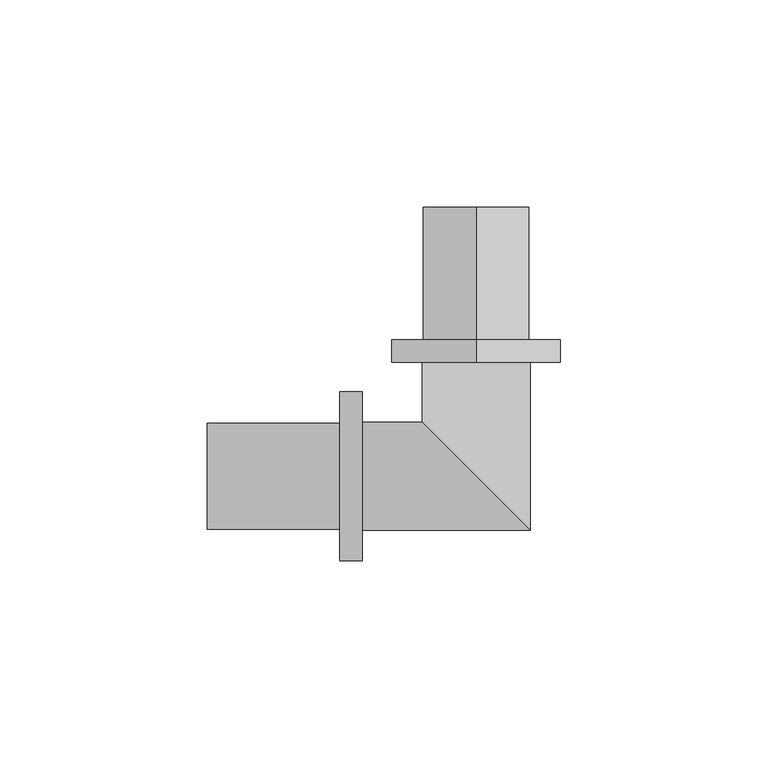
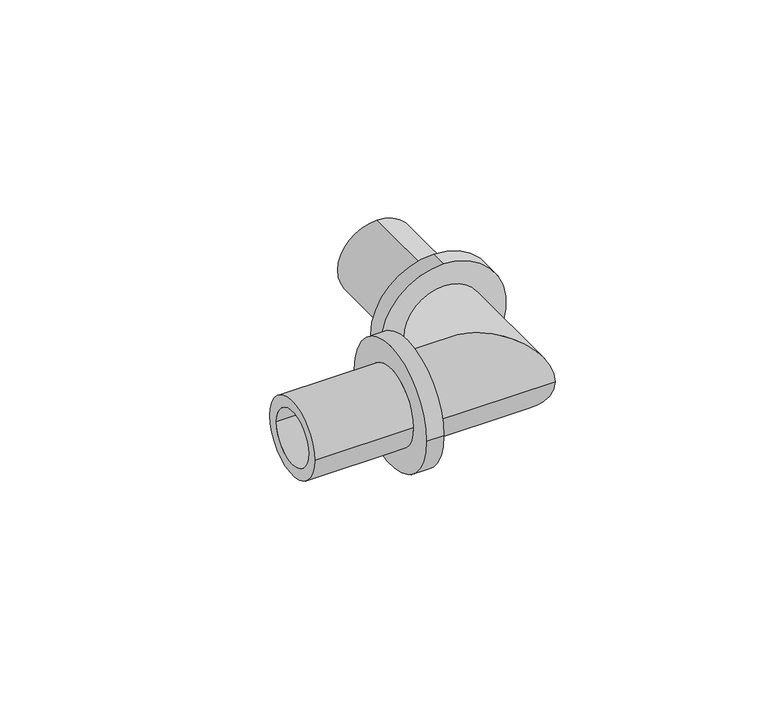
"""IFC4 building model written with IfcOpenShell, lengths in millimetres: pipe fitting geometry, RAUTITAN_Corner_PX : RTI PX C DE."""

from ifc_helpers import new_model, si_unit, frame, origin, place, context, project, spatial, polyline, circle_curve, ellipse_curve, source, transform, mapped, element, save
from ifc_brep_helpers import plane_surface, cylinder_surface, revolved_surface, advanced_brep


def pipe_fitting_f0699bc9(model_context):
    return source(origin(), model_context, "Body", "AdvancedBrep", [
        advanced_brep(
        [(0.0, 33.0, 20.45), (0.0, 33.0, -20.45), (0.0, 27.5, -20.45), (0.0, 27.5, 20.45), (0.0, 65.0, 12.75), (0.0, 65.0, -12.75), (0.0, 33.0, -12.75), (0.0, 33.0, 12.75), (0.0, 27.5, 9.05), (0.0, 27.5, -9.05), (0.0, 65.0, -9.05), (0.0, 65.0, 9.05)],
        [
            (0, 1, circle_curve(frame((0.0, 33.0, 0.0), z_axis=(0.0, -1.0, 0.0), x_axis=(0.0, 0.0, -1.0)), 20.45)),
            (1, 2),
            (2, 3, circle_curve(frame((0.0, 27.5, 0.0), z_axis=(0.0, 1.0, 0.0), x_axis=(0.0, 0.0, -1.0)), 20.45)),
            (3, 0),
            (4, 5, circle_curve(frame((0.0, 65.0, 0.0), z_axis=(0.0, -1.0, 0.0), x_axis=(0.0, 0.0, -1.0)), 12.75)),
            (5, 6),
            (6, 7, circle_curve(frame((0.0, 33.0, 0.0), z_axis=(0.0, 1.0, 0.0), x_axis=(0.0, 0.0, -1.0)), 12.75)),
            (7, 4),
            (8, 9, circle_curve(frame((0.0, 27.5, 0.0), z_axis=(0.0, -1.0, 0.0), x_axis=(0.0, 0.0, -1.0)), 9.05)),
            (9, 10),
            (10, 11, circle_curve(frame((0.0, 65.0, 0.0), z_axis=(0.0, 1.0, 0.0), x_axis=(0.0, 0.0, -1.0)), 9.05)),
            (11, 8),
            (1, 0, circle_curve(frame((0.0, 33.0, 0.0), z_axis=(0.0, -1.0, 0.0), x_axis=(0.0, 0.0, 1.0)), 20.45)),
            (3, 2, circle_curve(frame((0.0, 27.5, 0.0), z_axis=(0.0, 1.0, 0.0), x_axis=(0.0, 0.0, 1.0)), 20.45)),
            (6, 7, circle_curve(frame((0.0, 33.0, 0.0), z_axis=(0.0, -1.0, 0.0), x_axis=(0.0, 0.0, 1.0)), 12.75)),
            (5, 4, circle_curve(frame((0.0, 65.0, 0.0), z_axis=(0.0, -1.0, 0.0), x_axis=(0.0, 0.0, 1.0)), 12.75)),
            (10, 11, circle_curve(frame((0.0, 65.0, 0.0), z_axis=(0.0, -1.0, 0.0), x_axis=(0.0, 0.0, 1.0)), 9.05)),
            (9, 8, circle_curve(frame((0.0, 27.5, 0.0), z_axis=(0.0, -1.0, 0.0), x_axis=(0.0, 0.0, 1.0)), 9.05)),
        ],
        [
            cylinder_surface(frame((0.0, 27.5, 0.0), z_axis=(0.0, 1.0, 0.0), x_axis=(0.0, 0.0, -1.0)), 20.45),
            cylinder_surface(frame((0.0, 27.5, 0.0), z_axis=(0.0, 1.0, 0.0), x_axis=(0.0, 0.0, -1.0)), 12.75),
            revolved_surface(polyline([(0.0, 65.0, -9.05), (0.0, 27.5, -9.05)]), (0.0, 27.5, 0.0), (0.0, 1.0, 0.0)),
            cylinder_surface(frame((0.0, 27.5, 0.0), z_axis=(0.0, 1.0, 0.0), x_axis=(0.0, 0.0, 1.0)), 20.45),
            plane_surface(frame((0.0, 33.0, 0.0), z_axis=(0.0, 1.0, 0.0), x_axis=(0.0, 0.0, 1.0))),
            cylinder_surface(frame((0.0, 27.5, 0.0), z_axis=(0.0, 1.0, 0.0), x_axis=(0.0, 0.0, 1.0)), 12.75),
            plane_surface(frame((0.0, 65.0, 0.0), z_axis=(0.0, 1.0, 0.0), x_axis=(0.0, 0.0, 1.0))),
            revolved_surface(polyline([(0.0, 65.0, 9.05), (0.0, 27.5, 9.05)]), (0.0, 27.5, 0.0), (0.0, 1.0, 0.0)),
            plane_surface(frame((0.0, 27.5, 0.0), z_axis=(0.0, -1.0, 0.0), x_axis=(0.0, 0.0, 1.0))),
        ],
        [
            (0, [[1, 2, 3, 4]]),
            (1, [[5, 6, 7, 8]]),
            (2, [[9, 10, 11, 12]]),
            (3, [[13, -4, 14, -2]]),
            (4, [[-13, -1], [15, -7]]),
            (5, [[16, -8, -15, -6]]),
            (6, [[-16, -5], [17, -11]]),
            (7, [[18, -12, -17, -10]]),
            (8, [[-14, -3], [-18, -9]]),
        ],
    ),
        advanced_brep(
        [(-33.0, -20.45, 0.0), (-33.0, 20.45, 0.0), (-27.5, 20.45, 0.0), (-27.5, -20.45, 0.0), (-65.0, -12.75, 0.0), (-65.0, 12.75, 0.0), (-33.0, 12.75, 0.0), (-33.0, -12.75, 0.0), (-27.5, -9.05, 0.0), (-27.5, 9.05, 0.0), (-65.0, 9.05, 0.0), (-65.0, -9.05, 0.0)],
        [
            (0, 1, circle_curve(frame((-33.0, 0.0, 0.0), z_axis=(1.0, 0.0, 0.0), x_axis=(0.0, 1.0, 0.0)), 20.45)),
            (1, 2),
            (2, 3, circle_curve(frame((-27.5, 0.0, 0.0), z_axis=(-1.0, 0.0, 0.0), x_axis=(0.0, 1.0, 0.0)), 20.45)),
            (3, 0),
            (4, 5, circle_curve(frame((-65.0, 0.0, 0.0), z_axis=(1.0, 0.0, 0.0), x_axis=(0.0, 1.0, 0.0)), 12.75)),
            (5, 6),
            (6, 7, circle_curve(frame((-33.0, 0.0, 0.0), z_axis=(-1.0, 0.0, 0.0), x_axis=(0.0, 1.0, 0.0)), 12.75)),
            (7, 4),
            (8, 9, circle_curve(frame((-27.5, 0.0, 0.0), z_axis=(1.0, 0.0, 0.0), x_axis=(0.0, 1.0, 0.0)), 9.05)),
            (9, 10),
            (10, 11, circle_curve(frame((-65.0, 0.0, 0.0), z_axis=(-1.0, 0.0, 0.0), x_axis=(0.0, 1.0, 0.0)), 9.05)),
            (11, 8),
            (1, 0, circle_curve(frame((-33.0, 0.0, 0.0), z_axis=(1.0, 0.0, 0.0), x_axis=(0.0, -1.0, 0.0)), 20.45)),
            (3, 2, circle_curve(frame((-27.5, 0.0, 0.0), z_axis=(-1.0, 0.0, 0.0), x_axis=(0.0, -1.0, 0.0)), 20.45)),
            (6, 7, circle_curve(frame((-33.0, 0.0, 0.0), z_axis=(1.0, 0.0, 0.0), x_axis=(0.0, -1.0, 0.0)), 12.75)),
            (5, 4, circle_curve(frame((-65.0, 0.0, 0.0), z_axis=(1.0, 0.0, 0.0), x_axis=(0.0, -1.0, 0.0)), 12.75)),
            (10, 11, circle_curve(frame((-65.0, 0.0, 0.0), z_axis=(1.0, 0.0, 0.0), x_axis=(0.0, -1.0, 0.0)), 9.05)),
            (9, 8, circle_curve(frame((-27.5, 0.0, 0.0), z_axis=(1.0, 0.0, 0.0), x_axis=(0.0, -1.0, 0.0)), 9.05)),
        ],
        [
            cylinder_surface(frame((-27.5, 0.0, 0.0), z_axis=(-1.0, 0.0, 0.0), x_axis=(0.0, 1.0, 0.0)), 20.45),
            cylinder_surface(frame((-27.5, 0.0, 0.0), z_axis=(-1.0, 0.0, 0.0), x_axis=(0.0, 1.0, 0.0)), 12.75),
            revolved_surface(polyline([(-65.0, 9.05, 0.0), (-27.5, 9.05, 0.0)]), (-27.5, 0.0, 0.0), (-1.0, 0.0, 0.0)),
            cylinder_surface(frame((-27.5, 0.0, 0.0), z_axis=(-1.0, 0.0, 0.0), x_axis=(0.0, -1.0, 0.0)), 20.45),
            plane_surface(frame((-33.0, 0.0, 0.0), z_axis=(-1.0, 0.0, 0.0), x_axis=(0.0, -1.0, 0.0))),
            cylinder_surface(frame((-27.5, 0.0, 0.0), z_axis=(-1.0, 0.0, 0.0), x_axis=(0.0, -1.0, 0.0)), 12.75),
            plane_surface(frame((-65.0, 0.0, 0.0), z_axis=(-1.0, 0.0, 0.0), x_axis=(0.0, -1.0, 0.0))),
            revolved_surface(polyline([(-65.0, -9.05, 0.0), (-27.5, -9.05, 0.0)]), (-27.5, 0.0, 0.0), (-1.0, 0.0, 0.0)),
            plane_surface(frame((-27.5, 0.0, 0.0), z_axis=(1.0, 0.0, 0.0), x_axis=(0.0, -1.0, 0.0))),
        ],
        [
            (0, [[1, 2, 3, 4]]),
            (1, [[5, 6, 7, 8]]),
            (2, [[9, 10, 11, 12]]),
            (3, [[13, -4, 14, -2]]),
            (4, [[-13, -1], [15, -7]]),
            (5, [[16, -8, -15, -6]]),
            (6, [[-16, -5], [17, -11]]),
            (7, [[18, -12, -17, -10]]),
            (8, [[-14, -3], [-18, -9]]),
        ],
    ),
        advanced_brep(
        [(-27.5, -13.05, 0.0), (-27.5, 13.05, 0.0), (-27.5, -9.05, 0.0), (-27.5, 9.05, 0.0), (-9.05, 9.05, 0.0), (9.05, -9.05, 0.0), (13.05, 27.5, 0.0), (-13.05, 27.5, 0.0), (9.05, 27.5, 0.0), (-9.05, 27.5, 0.0), (13.05, -13.05, 0.0), (-13.05, 13.05, 0.0)],
        [
            (0, 1, circle_curve(frame((-27.5, 0.0, 0.0), z_axis=(-1.0, 0.0, 0.0), x_axis=(0.0, 1.0, 0.0)), 13.05)),
            (1, 0, circle_curve(frame((-27.5, 0.0, 0.0), z_axis=(-1.0, 0.0, 0.0), x_axis=(0.0, 1.0, 0.0)), 13.05)),
            (2, 3, circle_curve(frame((-27.5, 0.0, 0.0), z_axis=(1.0, 0.0, 0.0), x_axis=(0.0, 1.0, 0.0)), 9.05)),
            (3, 2, circle_curve(frame((-27.5, 0.0, 0.0), z_axis=(1.0, 0.0, 0.0), x_axis=(0.0, 1.0, 0.0)), 9.05)),
            (3, 4),
            (4, 5, ellipse_curve(frame((0.0, 0.0, 0.0), z_axis=(0.707106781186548, 0.7071067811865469, 0.0), x_axis=(0.7071067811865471, -0.7071067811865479, 0.0)), 12.7986327, 9.05)),
            (5, 2),
            (5, 4, ellipse_curve(frame((0.0, 0.0, 0.0), z_axis=(0.707106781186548, 0.7071067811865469, 0.0), x_axis=(0.7071067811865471, -0.7071067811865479, 0.0)), 12.7986327, 9.05)),
            (6, 7, circle_curve(frame((0.0, 27.5, 0.0), z_axis=(0.0, 1.0, 0.0), x_axis=(-1.0, 0.0, 0.0)), 13.05)),
            (7, 6, circle_curve(frame((0.0, 27.5, 0.0), z_axis=(0.0, 1.0, 0.0), x_axis=(-1.0, 0.0, 0.0)), 13.05)),
            (8, 9, circle_curve(frame((0.0, 27.5, 0.0), z_axis=(0.0, -1.0, 0.0), x_axis=(-1.0, 0.0, 0.0)), 9.05)),
            (9, 8, circle_curve(frame((0.0, 27.5, 0.0), z_axis=(0.0, -1.0, 0.0), x_axis=(-1.0, 0.0, 0.0)), 9.05)),
            (4, 9),
            (8, 5),
            (0, 10),
            (10, 11, ellipse_curve(frame((0.0, 0.0, 0.0), z_axis=(-0.707106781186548, -0.7071067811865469, 0.0), x_axis=(-0.7071067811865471, 0.7071067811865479, 0.0)), 18.455487, 13.05)),
            (11, 1),
            (11, 10, ellipse_curve(frame((0.0, 0.0, 0.0), z_axis=(-0.707106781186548, -0.7071067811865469, 0.0), x_axis=(-0.7071067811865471, 0.7071067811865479, 0.0)), 18.455487, 13.05)),
            (10, 6),
            (7, 11),
        ],
        [
            plane_surface(frame((-27.5, 0.0, 0.0), z_axis=(-1.0, 0.0, 0.0), x_axis=(0.0, 0.0, 1.0))),
            revolved_surface(polyline([(9.049999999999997, 9.05, 0.0), (-27.5, 9.05, 0.0)]), (-27.5, 0.0, 0.0), (1.0, 0.0, 0.0)),
            plane_surface(frame((0.0, 27.5, 0.0), z_axis=(0.0, 1.0, 0.0), x_axis=(0.0, 0.0, 1.0))),
            revolved_surface(polyline([(-9.05, 27.5, 0.0), (-9.05, -9.05, 0.0)]), (0.0, 0.0, 0.0), (0.0, 1.0, 0.0)),
            cylinder_surface(frame((-27.5, 0.0, 0.0), z_axis=(-1.0, 0.0, 0.0), x_axis=(0.0, 1.0, 0.0)), 13.05),
            cylinder_surface(frame((0.0, 0.0, 0.0), z_axis=(0.0, -1.0, 0.0), x_axis=(-1.0, 0.0, 0.0)), 13.05),
        ],
        [
            (0, [[1, 2], [3, 4]]),
            (1, [[-4, 5, 6, 7]]),
            (1, [[-3, -7, 8, -5]]),
            (2, [[9, 10], [11, 12]]),
            (3, [[-6, 13, -11, 14]]),
            (3, [[-8, -14, -12, -13]]),
            (4, [[-1, 15, 16, 17]]),
            (4, [[-2, -17, 18, -15]]),
            (5, [[-16, 19, -10, 20]]),
            (5, [[-18, -20, -9, -19]]),
        ],
    ),
    ])


if __name__ == "__main__":
    model = new_model("IFC4")
    model_context = context("Model", 3, world=origin())
    ifc_project = project(units=[si_unit("LENGTHUNIT", "METRE", prefix="MILLI")], contexts=[model_context])
    site = spatial("IfcSite", under=ifc_project)
    building = spatial("IfcBuilding", under=site)
    placement = place(None, origin())
    pipe_fitting_shape = pipe_fitting_f0699bc9(model_context)
    element("IfcPipeFitting", 1, ObjectType="RAUTITAN_Corner_PX : RTI PX C DE", at=placement, inside=building, context=model_context, shape_type="MappedRepresentation", body=[
        mapped(pipe_fitting_shape, transform((0.0, 0.0, 0.0), x_axis=(1.0, 0.0, 0.0), y_axis=(0.0, 1.0, 0.0), z_axis=(0.0, 0.0, 1.0))),
    ])
    save(model, "model.ifc")
